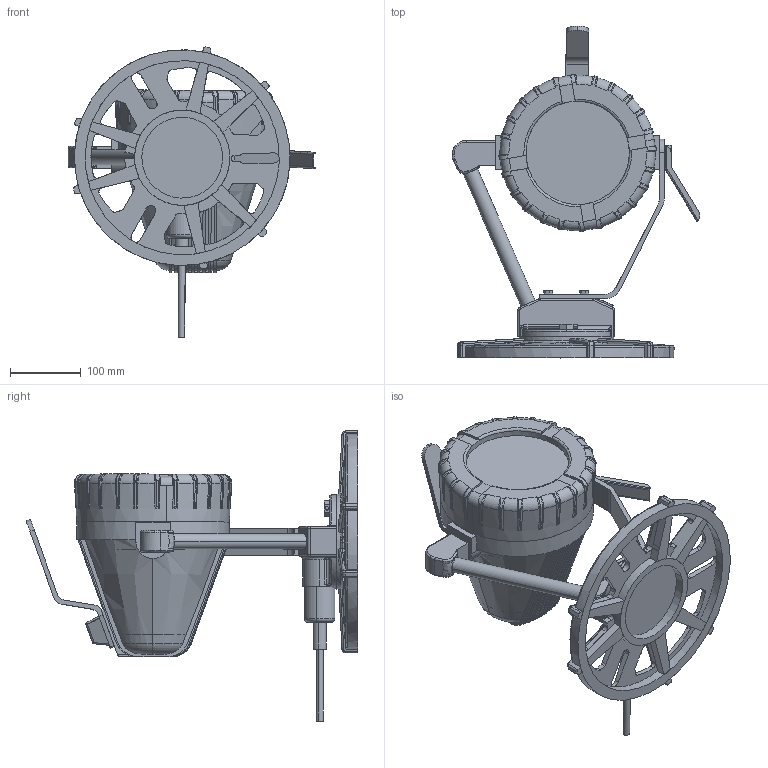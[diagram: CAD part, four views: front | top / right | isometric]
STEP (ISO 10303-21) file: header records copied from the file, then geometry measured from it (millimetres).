
FILE_DESCRIPTION (( 'STEP AP214' ), '1' );
FILE_NAME ('Portable Haz Light silver.STEP', '2010-09-18T02:52:00', ( 'Owner' ), ( 'HOME' ), 'SwSTEP 2.0', 'SolidWorks 2008', '' );
FILE_SCHEMA (( 'AUTOMOTIVE_DESIGN' ));
Length unit declared in the file: inch
Products named in the file (14): Botton bolt; Portable Haz Light silver; Base; base bolt; Support; Stand; Bulb; Lamp Body; cord; light handlle; lens; Lens Cover; handle bolt; Handle
Assembly tree (14 placements, depth 2):
  Portable Haz Light silver
    Bulb
    light handlle
    base bolt  x2
    Botton bolt
    Base
    Lamp Body
    cord
    handle bolt
    Handle
    Lens Cover
    Support
    Stand
    lens
Bounding box: 349.95 x 468.89 x 410.25 mm (x, y, z)
Volume: 5043408.4 mm3; surface area: 795943.3 mm2
Topology: 14 solids, 15 shells, 1154 faces, 3151 edges, 1943 vertices
Faces by surface type: cylinder 389, plane 373, bspline 266, torus 93, cone 20, sphere 13
Entity records: 48117 total; most frequent: CARTESIAN_POINT 21343, ORIENTED_EDGE 6072, DIRECTION 4836, EDGE_CURVE 3036, VERTEX_POINT 1925, AXIS2_PLACEMENT_3D 1869, EDGE_LOOP 1187, ADVANCED_FACE 1143
